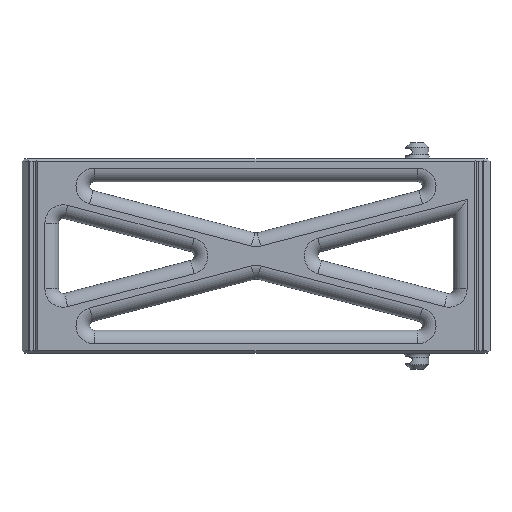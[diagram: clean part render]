
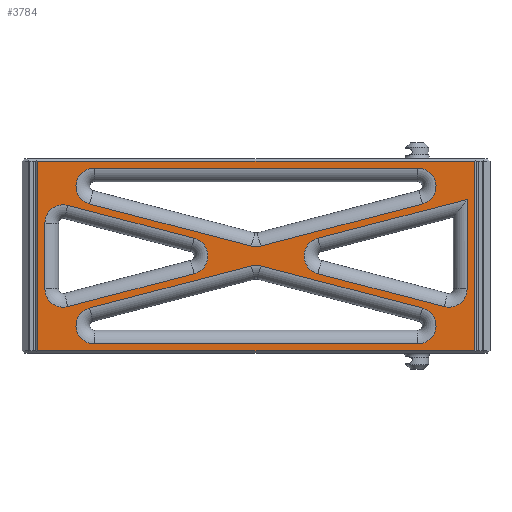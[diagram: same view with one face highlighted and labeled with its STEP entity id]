
A CAD part, front view. The second image highlights one B-rep face of the part: STEP entity #3784.
In plain terms, the highlighted planar face has unit normal (0, -1, 0).
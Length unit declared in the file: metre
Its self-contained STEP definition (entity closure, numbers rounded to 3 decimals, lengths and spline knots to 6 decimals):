
#101=CIRCLE('',#4037,0.008);
#102=CIRCLE('',#4038,0.008);
#103=CIRCLE('',#4039,0.008);
#104=CIRCLE('',#4040,0.008);
#105=CIRCLE('',#4041,0.008);
#106=CIRCLE('',#4042,0.008);
#107=CIRCLE('',#4043,0.008);
#108=CIRCLE('',#4044,0.008);
#109=CIRCLE('',#4045,0.008);
#110=CIRCLE('',#4046,0.008);
#111=CIRCLE('',#4047,0.008);
#278=ORIENTED_EDGE('',*,*,#1400,.T.);
#279=ORIENTED_EDGE('',*,*,#1401,.T.);
#280=ORIENTED_EDGE('',*,*,#1402,.T.);
#281=ORIENTED_EDGE('',*,*,#1403,.T.);
#282=ORIENTED_EDGE('',*,*,#1404,.T.);
#283=ORIENTED_EDGE('',*,*,#1405,.T.);
#284=ORIENTED_EDGE('',*,*,#1406,.T.);
#285=ORIENTED_EDGE('',*,*,#1407,.T.);
#286=ORIENTED_EDGE('',*,*,#1408,.T.);
#287=ORIENTED_EDGE('',*,*,#1409,.T.);
#288=ORIENTED_EDGE('',*,*,#1410,.T.);
#289=ORIENTED_EDGE('',*,*,#1411,.T.);
#290=ORIENTED_EDGE('',*,*,#1412,.T.);
#291=ORIENTED_EDGE('',*,*,#1413,.T.);
#292=ORIENTED_EDGE('',*,*,#1414,.T.);
#293=ORIENTED_EDGE('',*,*,#1415,.T.);
#294=ORIENTED_EDGE('',*,*,#1416,.T.);
#295=ORIENTED_EDGE('',*,*,#1417,.T.);
#296=ORIENTED_EDGE('',*,*,#1418,.T.);
#297=ORIENTED_EDGE('',*,*,#1419,.T.);
#298=ORIENTED_EDGE('',*,*,#1420,.T.);
#299=ORIENTED_EDGE('',*,*,#1421,.T.);
#300=ORIENTED_EDGE('',*,*,#1422,.T.);
#301=ORIENTED_EDGE('',*,*,#1423,.T.);
#302=ORIENTED_EDGE('',*,*,#1424,.T.);
#303=ORIENTED_EDGE('',*,*,#1425,.T.);
#304=ORIENTED_EDGE('',*,*,#1426,.T.);
#1400=EDGE_CURVE('',#1955,#1956,#2292,.F.);
#1401=EDGE_CURVE('',#1956,#1957,#2293,.T.);
#1402=EDGE_CURVE('',#1957,#1958,#101,.F.);
#1403=EDGE_CURVE('',#1958,#1959,#2294,.T.);
#1404=EDGE_CURVE('',#1959,#1955,#102,.F.);
#1405=EDGE_CURVE('',#1960,#1961,#2295,.T.);
#1406=EDGE_CURVE('',#1961,#1962,#103,.F.);
#1407=EDGE_CURVE('',#1962,#1963,#2296,.T.);
#1408=EDGE_CURVE('',#1963,#1964,#104,.F.);
#1409=EDGE_CURVE('',#1964,#1965,#2297,.T.);
#1410=EDGE_CURVE('',#1965,#1960,#105,.F.);
#1411=EDGE_CURVE('',#1966,#1967,#2298,.F.);
#1412=EDGE_CURVE('',#1967,#1968,#106,.F.);
#1413=EDGE_CURVE('',#1968,#1969,#2299,.F.);
#1414=EDGE_CURVE('',#1969,#1970,#107,.F.);
#1415=EDGE_CURVE('',#1970,#1971,#2300,.T.);
#1416=EDGE_CURVE('',#1971,#1966,#108,.F.);
#1417=EDGE_CURVE('',#1972,#1973,#2301,.F.);
#1418=EDGE_CURVE('',#1973,#1974,#109,.F.);
#1419=EDGE_CURVE('',#1974,#1975,#2302,.F.);
#1420=EDGE_CURVE('',#1975,#1976,#110,.F.);
#1421=EDGE_CURVE('',#1976,#1977,#2303,.F.);
#1422=EDGE_CURVE('',#1977,#1972,#111,.F.);
#1423=EDGE_CURVE('',#1978,#1979,#2304,.T.);
#1424=EDGE_CURVE('',#1979,#1980,#2305,.T.);
#1425=EDGE_CURVE('',#1980,#1981,#2306,.T.);
#1426=EDGE_CURVE('',#1981,#1978,#2307,.T.);
#1955=VERTEX_POINT('',#5607);
#1956=VERTEX_POINT('',#5608);
#1957=VERTEX_POINT('',#5610);
#1958=VERTEX_POINT('',#5612);
#1959=VERTEX_POINT('',#5614);
#1960=VERTEX_POINT('',#5617);
#1961=VERTEX_POINT('',#5618);
#1962=VERTEX_POINT('',#5620);
#1963=VERTEX_POINT('',#5622);
#1964=VERTEX_POINT('',#5624);
#1965=VERTEX_POINT('',#5626);
#1966=VERTEX_POINT('',#5629);
#1967=VERTEX_POINT('',#5630);
#1968=VERTEX_POINT('',#5632);
#1969=VERTEX_POINT('',#5634);
#1970=VERTEX_POINT('',#5636);
#1971=VERTEX_POINT('',#5638);
#1972=VERTEX_POINT('',#5641);
#1973=VERTEX_POINT('',#5642);
#1974=VERTEX_POINT('',#5644);
#1975=VERTEX_POINT('',#5646);
#1976=VERTEX_POINT('',#5648);
#1977=VERTEX_POINT('',#5650);
#1978=VERTEX_POINT('',#5653);
#1979=VERTEX_POINT('',#5654);
#1980=VERTEX_POINT('',#5656);
#1981=VERTEX_POINT('',#5658);
#2292=LINE('',#5606,#2759);
#2293=LINE('',#5609,#2760);
#2294=LINE('',#5613,#2761);
#2295=LINE('',#5616,#2762);
#2296=LINE('',#5621,#2763);
#2297=LINE('',#5625,#2764);
#2298=LINE('',#5628,#2765);
#2299=LINE('',#5633,#2766);
#2300=LINE('',#5637,#2767);
#2301=LINE('',#5640,#2768);
#2302=LINE('',#5645,#2769);
#2303=LINE('',#5649,#2770);
#2304=LINE('',#5652,#2771);
#2305=LINE('',#5655,#2772);
#2306=LINE('',#5657,#2773);
#2307=LINE('',#5659,#2774);
#2759=VECTOR('',#4460,1.);
#2760=VECTOR('',#4461,1.);
#2761=VECTOR('',#4464,1.);
#2762=VECTOR('',#4467,1.);
#2763=VECTOR('',#4470,1.);
#2764=VECTOR('',#4473,1.);
#2765=VECTOR('',#4476,1.);
#2766=VECTOR('',#4479,1.);
#2767=VECTOR('',#4482,1.);
#2768=VECTOR('',#4485,1.);
#2769=VECTOR('',#4488,1.);
#2770=VECTOR('',#4491,1.);
#2771=VECTOR('',#4494,1.);
#2772=VECTOR('',#4495,1.);
#2773=VECTOR('',#4496,1.);
#2774=VECTOR('',#4497,1.);
#3155=EDGE_LOOP('',(#278,#279,#280,#281,#282));
#3156=EDGE_LOOP('',(#283,#284,#285,#286,#287,#288));
#3157=EDGE_LOOP('',(#289,#290,#291,#292,#293,#294));
#3158=EDGE_LOOP('',(#295,#296,#297,#298,#299,#300));
#3159=EDGE_LOOP('',(#301,#302,#303,#304));
#3385=FACE_BOUND('',#3155,.T.);
#3386=FACE_BOUND('',#3156,.T.);
#3387=FACE_BOUND('',#3157,.T.);
#3388=FACE_BOUND('',#3158,.T.);
#3389=FACE_BOUND('',#3159,.T.);
#3612=PLANE('',#4036);
#3784=ADVANCED_FACE('',(#3385,#3386,#3387,#3388,#3389),#3612,.T.);
#4036=AXIS2_PLACEMENT_3D('',#5605,#4458,#4459);
#4037=AXIS2_PLACEMENT_3D('',#5611,#4462,#4463);
#4038=AXIS2_PLACEMENT_3D('',#5615,#4465,#4466);
#4039=AXIS2_PLACEMENT_3D('',#5619,#4468,#4469);
#4040=AXIS2_PLACEMENT_3D('',#5623,#4471,#4472);
#4041=AXIS2_PLACEMENT_3D('',#5627,#4474,#4475);
#4042=AXIS2_PLACEMENT_3D('',#5631,#4477,#4478);
#4043=AXIS2_PLACEMENT_3D('',#5635,#4480,#4481);
#4044=AXIS2_PLACEMENT_3D('',#5639,#4483,#4484);
#4045=AXIS2_PLACEMENT_3D('',#5643,#4486,#4487);
#4046=AXIS2_PLACEMENT_3D('',#5647,#4489,#4490);
#4047=AXIS2_PLACEMENT_3D('',#5651,#4492,#4493);
#4458=DIRECTION('',(0.,-1.,0.));
#4459=DIRECTION('',(1.,0.,0.));
#4460=DIRECTION('',(-0.968,0.,-0.252));
#4461=DIRECTION('',(0.,0.,-1.));
#4462=DIRECTION('',(0.,-1.,0.));
#4463=DIRECTION('',(1.,0.,0.));
#4464=DIRECTION('',(-0.968,0.,0.252));
#4465=DIRECTION('',(0.,-1.,0.));
#4466=DIRECTION('',(1.,0.,0.));
#4467=DIRECTION('',(-0.968,0.,-0.252));
#4468=DIRECTION('',(0.,-1.,0.));
#4469=DIRECTION('',(1.,0.,0.));
#4470=DIRECTION('',(-0.968,0.,0.252));
#4471=DIRECTION('',(0.,-1.,0.));
#4472=DIRECTION('',(1.,0.,0.));
#4473=DIRECTION('',(1.,0.,0.));
#4474=DIRECTION('',(0.,-1.,0.));
#4475=DIRECTION('',(1.,0.,0.));
#4476=DIRECTION('',(0.968,0.,0.252));
#4477=DIRECTION('',(0.,-1.,0.));
#4478=DIRECTION('',(1.,0.,0.));
#4479=DIRECTION('',(0.,0.,-1.));
#4480=DIRECTION('',(0.,-1.,0.));
#4481=DIRECTION('',(1.,0.,0.));
#4482=DIRECTION('',(0.968,0.,-0.252));
#4483=DIRECTION('',(0.,-1.,0.));
#4484=DIRECTION('',(1.,0.,0.));
#4485=DIRECTION('',(1.,0.,0.));
#4486=DIRECTION('',(0.,-1.,0.));
#4487=DIRECTION('',(1.,0.,0.));
#4488=DIRECTION('',(-0.968,0.,-0.252));
#4489=DIRECTION('',(0.,-1.,0.));
#4490=DIRECTION('',(1.,0.,0.));
#4491=DIRECTION('',(-0.968,0.,0.252));
#4492=DIRECTION('',(0.,-1.,0.));
#4493=DIRECTION('',(1.,0.,0.));
#4494=DIRECTION('',(-1.,0.,0.));
#4495=DIRECTION('',(0.,0.,-1.));
#4496=DIRECTION('',(1.,0.,0.));
#4497=DIRECTION('',(0.,0.,1.));
#5605=CARTESIAN_POINT('',(0.,-0.045,0.0325));
#5606=CARTESIAN_POINT('',(0.084888,-0.045,0.055306));
#5607=CARTESIAN_POINT('',(0.027041,-0.045,0.040242));
#5608=CARTESIAN_POINT('',(0.0924,-0.045,0.057262));
#5609=CARTESIAN_POINT('',(0.0924,-0.045,0.018088));
#5610=CARTESIAN_POINT('',(0.0924,-0.045,0.018088));
#5611=CARTESIAN_POINT('',(0.0844,-0.045,0.018088));
#5612=CARTESIAN_POINT('',(0.082384,-0.045,0.010346));
#5613=CARTESIAN_POINT('',(0.027041,-0.045,0.024758));
#5614=CARTESIAN_POINT('',(0.027041,-0.045,0.024758));
#5615=CARTESIAN_POINT('',(0.029057,-0.045,0.0325));
#5616=CARTESIAN_POINT('',(-0.000927,-0.045,0.036059));
#5617=CARTESIAN_POINT('',(0.0728,-0.045,0.055258));
#5618=CARTESIAN_POINT('',(0.002016,-0.045,0.036825));
#5619=CARTESIAN_POINT('',(0.,-0.045,0.044567));
#5620=CARTESIAN_POINT('',(-0.002016,-0.045,0.036825));
#5621=CARTESIAN_POINT('',(0.000927,-0.045,0.036059));
#5622=CARTESIAN_POINT('',(-0.0728,-0.045,0.055258));
#5623=CARTESIAN_POINT('',(-0.070784,-0.045,0.063));
#5624=CARTESIAN_POINT('',(-0.070784,-0.045,0.071));
#5625=CARTESIAN_POINT('',(0.,-0.045,0.071));
#5626=CARTESIAN_POINT('',(0.070784,-0.045,0.071));
#5627=CARTESIAN_POINT('',(0.070784,-0.045,0.063));
#5628=CARTESIAN_POINT('',(0.000171,-0.045,0.031845));
#5629=CARTESIAN_POINT('',(-0.027041,-0.045,0.024758));
#5630=CARTESIAN_POINT('',(-0.082384,-0.045,0.010346));
#5631=CARTESIAN_POINT('',(-0.0844,-0.045,0.018088));
#5632=CARTESIAN_POINT('',(-0.0924,-0.045,0.018088));
#5633=CARTESIAN_POINT('',(-0.0924,-0.045,0.0325));
#5634=CARTESIAN_POINT('',(-0.0924,-0.045,0.046912));
#5635=CARTESIAN_POINT('',(-0.0844,-0.045,0.046912));
#5636=CARTESIAN_POINT('',(-0.082384,-0.045,0.054654));
#5637=CARTESIAN_POINT('',(0.000171,-0.045,0.033155));
#5638=CARTESIAN_POINT('',(-0.027041,-0.045,0.040242));
#5639=CARTESIAN_POINT('',(-0.029057,-0.045,0.0325));
#5640=CARTESIAN_POINT('',(0.,-0.045,-0.006));
#5641=CARTESIAN_POINT('',(0.070784,-0.045,-0.006));
#5642=CARTESIAN_POINT('',(-0.070784,-0.045,-0.006));
#5643=CARTESIAN_POINT('',(-0.070784,-0.045,0.002));
#5644=CARTESIAN_POINT('',(-0.0728,-0.045,0.009742));
#5645=CARTESIAN_POINT('',(0.000927,-0.045,0.028941));
#5646=CARTESIAN_POINT('',(-0.002016,-0.045,0.028175));
#5647=CARTESIAN_POINT('',(0.,-0.045,0.020433));
#5648=CARTESIAN_POINT('',(0.002016,-0.045,0.028175));
#5649=CARTESIAN_POINT('',(-0.000927,-0.045,0.028941));
#5650=CARTESIAN_POINT('',(0.0728,-0.045,0.009742));
#5651=CARTESIAN_POINT('',(0.070784,-0.045,0.002));
#5652=CARTESIAN_POINT('',(-0.0964,-0.045,0.074));
#5653=CARTESIAN_POINT('',(0.0954,-0.045,0.074));
#5654=CARTESIAN_POINT('',(-0.0954,-0.045,0.074));
#5655=CARTESIAN_POINT('',(-0.0954,-0.045,-0.009));
#5656=CARTESIAN_POINT('',(-0.0954,-0.045,-0.009));
#5657=CARTESIAN_POINT('',(0.,-0.045,-0.009));
#5658=CARTESIAN_POINT('',(0.0954,-0.045,-0.009));
#5659=CARTESIAN_POINT('',(0.0954,-0.045,0.0325));
